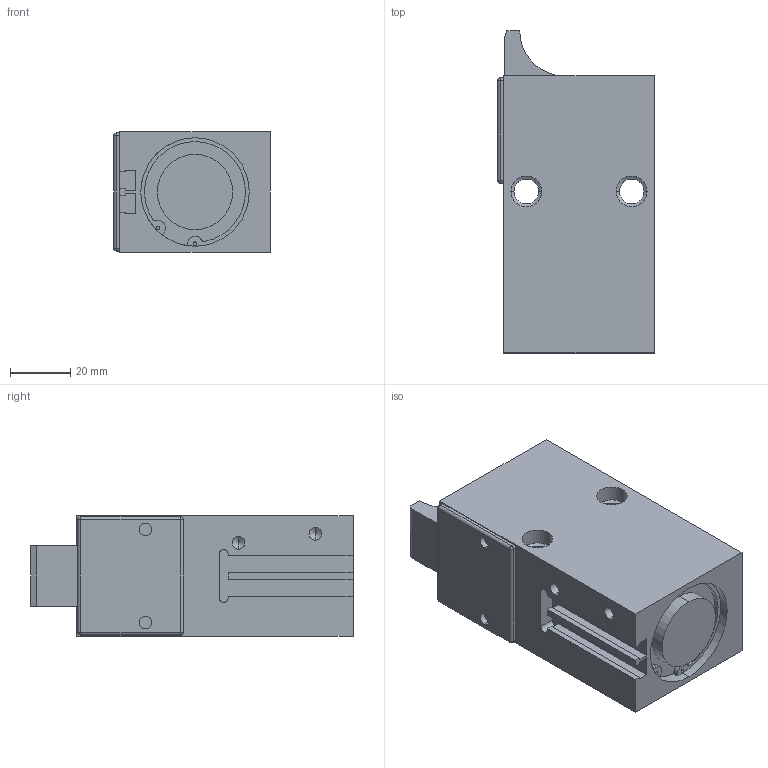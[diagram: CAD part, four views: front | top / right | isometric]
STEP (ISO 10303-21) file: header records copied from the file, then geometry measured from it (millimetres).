
FILE_DESCRIPTION (( 'STEP AP203' ), '1' );
FILE_NAME ('D0400-15-DW-E.STEP', '2011-10-12T08:05:51', ( 'test' ), ( '' ), 'SwSTEP 2.0', 'SolidWorks 2010', '' );
FILE_SCHEMA (( 'CONFIG_CONTROL_DESIGN' ));
Length unit declared in the file: millimetre
Products named in the file (1): D0400-15-DW-E
Bounding box: 52 x 107 x 40 mm (x, y, z)
Volume: 174335.5 mm3; surface area: 30849.5 mm2
Topology: 1 solids, 1 shells, 133 faces, 330 edges, 196 vertices
Faces by surface type: cylinder 60, plane 49, cone 20, sphere 4
Entity records: 3895 total; most frequent: DIRECTION 704, CARTESIAN_POINT 644, ORIENTED_EDGE 628, EDGE_CURVE 314, AXIS2_PLACEMENT_3D 256, VERTEX_POINT 196, LINE 192, VECTOR 192
